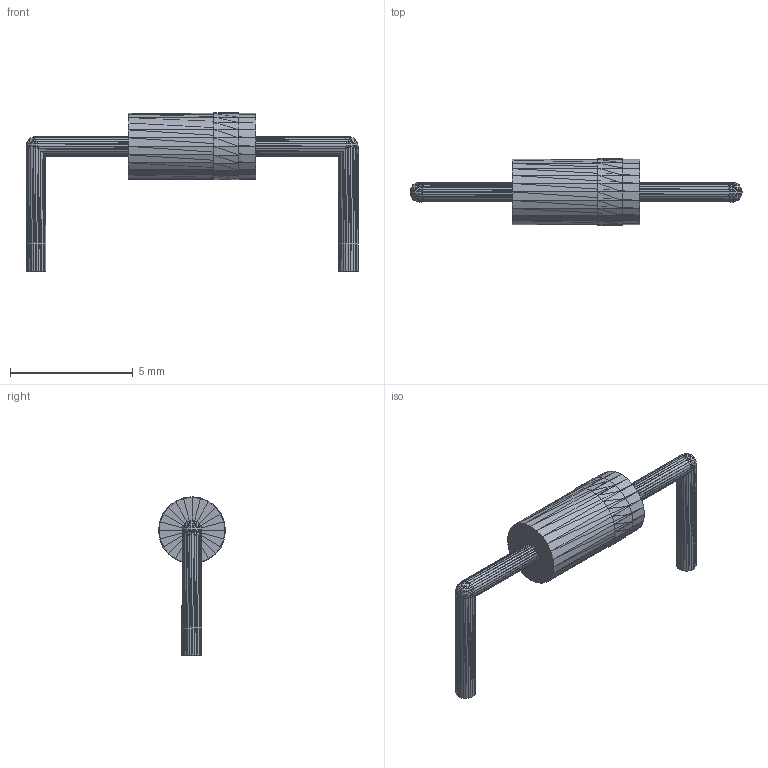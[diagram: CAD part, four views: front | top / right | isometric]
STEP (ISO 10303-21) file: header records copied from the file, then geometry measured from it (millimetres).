
FILE_DESCRIPTION(('HOOPS Exchange Step'),'2;1');
FILE_NAME('***.stp');
FILE_SCHEMA( ('AP242_MANAGED_MODEL_BASED_3D_ENGINEERING_MIM_LF {1 0 10303 442 1 1 4 }') );
Length unit declared in the file: inch
Products named in the file (8): DO-41_2; DO-41_3; DO-41_4; DO-41_5; DO-41_6; DO-41_7; DO-41_8; DO-41
Assembly tree (7 placements, depth 2):
  DO-41
    DO-41_2
    DO-41_3
    DO-41_4
    DO-41_5
    DO-41_6
    DO-41_7
    DO-41_8
Bounding box: 13.51 x 2.73 x 6.45 mm (x, y, z)
Volume: 47.2 mm3; surface area: 140.5 mm2
Topology: 7 solids, 7 shells, 1056 faces, 1584 edges, 542 vertices
Faces by surface type: plane 1056
Entity records: 20963 total; most frequent: DIRECTION 3728, CARTESIAN_POINT 3198, ORIENTED_EDGE 3168, VECTOR 1584, LINE 1584, EDGE_CURVE 1584, AXIS2_PLACEMENT_3D 1072, PLANE 1056
